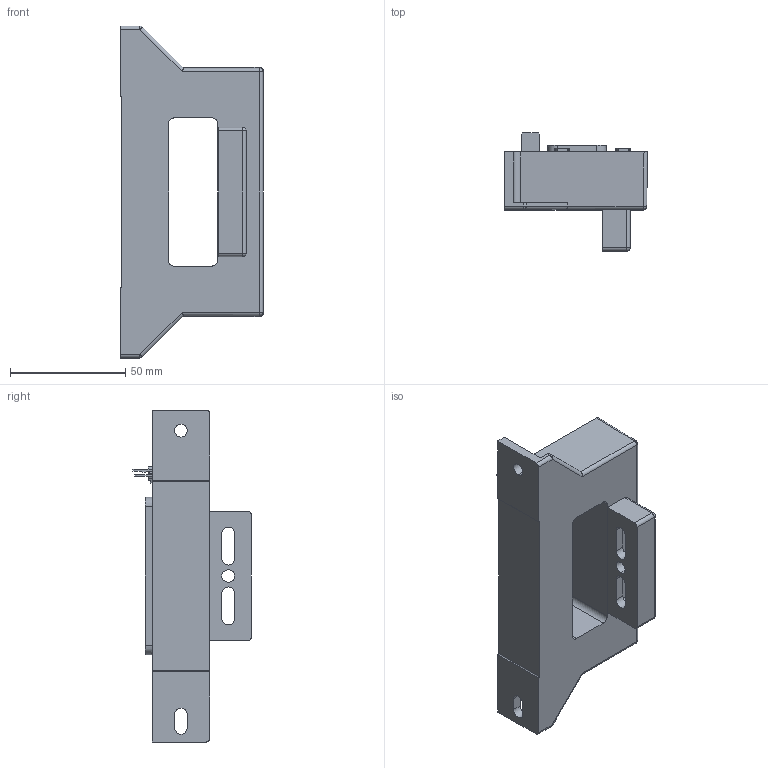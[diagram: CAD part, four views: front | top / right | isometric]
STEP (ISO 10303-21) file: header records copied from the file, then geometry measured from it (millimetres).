
FILE_DESCRIPTION(('Creo Elements/Direct Modeling STEP Export'),'2;1');
FILE_NAME('HAX 500...2000-S_Blackbox.stp','2015-12-17T14:49:20',(''),(''),'Creo Elements/Direct Modeling STEP processor for AP214 (Solid Model)','Creo Elements/Direct Modeling 18.1 03-Mar-2012 (C) Parametric Technology GmbH','');
FILE_SCHEMA(('AUTOMOTIVE_DESIGN { 1 0 10303 214 1 1 1 1 }'));
Length unit declared in the file: millimetre
Products named in the file (2): HAX_S_BBox
Assembly tree (1 placements, depth 2):
  HAX_S_BBox
    HAX_S_BBox
Bounding box: 62 x 51.4 x 144 mm (x, y, z)
Volume: 142589.5 mm3; surface area: 30702.6 mm2
Topology: 1 solids, 1 shells, 347 faces, 898 edges, 586 vertices
Faces by surface type: plane 239, cylinder 98, sphere 6, cone 4
Entity records: 11093 total; most frequent: CARTESIAN_POINT 1811, ORIENTED_EDGE 1784, DIRECTION 1760, EDGE_CURVE 892, VECTOR 690, LINE 690, VERTEX_POINT 586, AXIS2_PLACEMENT_3D 535
